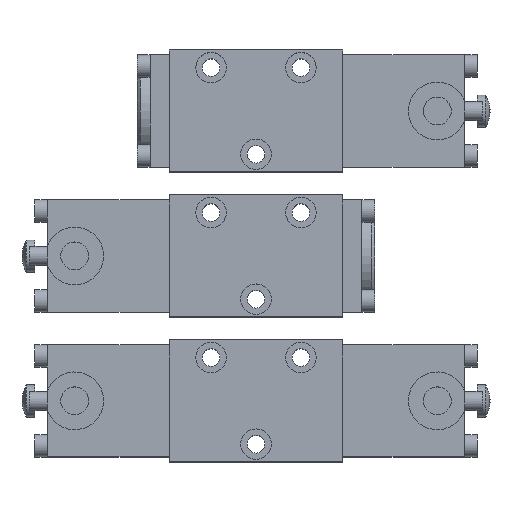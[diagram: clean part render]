
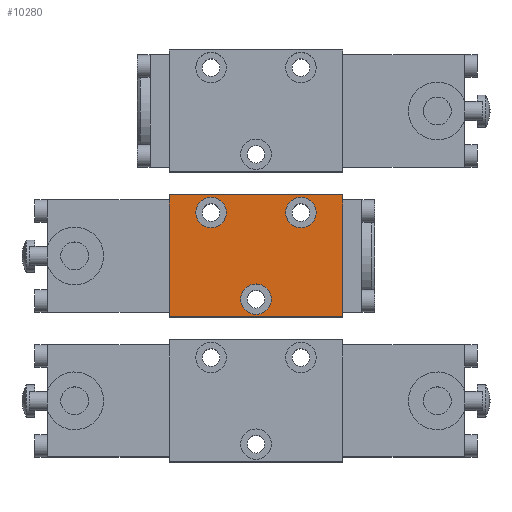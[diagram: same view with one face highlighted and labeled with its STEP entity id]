
A CAD part, top view. The second image highlights one B-rep face of the part: STEP entity #10280.
In plain terms, the highlighted planar face has unit normal (0, 0, 1).
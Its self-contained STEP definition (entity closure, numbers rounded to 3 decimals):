
#10280=ADVANCED_FACE('', (#10290,#10300,#10310,#10320), #10330, .T.);
#40790=AXIS2_PLACEMENT_3D('Ax2Pl3d', #40800, #40810, #40820);
#40830=AXIS2_PLACEMENT_3D('Ax2Pl3d', #40840, #40850, #40860);
#40870=AXIS2_PLACEMENT_3D('Ax2Pl3d', #40880, #40890, #40900);
#40910=AXIS2_PLACEMENT_3D('Ax2Pl3d', #40920, #40930, #40940);
#68710=CARTESIAN_POINT('', (54.,83.,138.));
#68720=CARTESIAN_POINT('', (54.,83.,138.));
#68730=CARTESIAN_POINT('', (54.,45.,138.));
#68840=CARTESIAN_POINT('', (0.,45.,138.));
#68850=CARTESIAN_POINT('', (0.,45.,138.));
#68860=CARTESIAN_POINT('', (0.,83.,138.));
#40800=CARTESIAN_POINT('HicPkt', (27.,50.5,138.));
#68940=CARTESIAN_POINT('', (27.,55.25,138.));
#40840=CARTESIAN_POINT('HicPkt', (0.,83.,138.));
#68950=CARTESIAN_POINT('', (54.,45.,138.));
#68960=CARTESIAN_POINT('', (0.,83.,138.));
#40880=CARTESIAN_POINT('HicPkt', (41.,77.5,138.));
#68970=CARTESIAN_POINT('', (41.,82.25,138.));
#40920=CARTESIAN_POINT('HicPkt', (13.,77.5,138.));
#68980=CARTESIAN_POINT('', (13.,82.25,138.));
#79060=CIRCLE('Circle', #40790, 4.75);
#79070=CIRCLE('Circle', #40870, 4.75);
#79080=CIRCLE('Circle', #40910, 4.75);
#122420=DIRECTION('', (0.,1.,0.));
#122450=DIRECTION('', (0.,-1.,0.));
#40810=DIRECTION('Axis', (0.,0.,1.));
#40820=DIRECTION('RefDirection', (1.,0.,0.));
#40850=DIRECTION('Axis', (0.,0.,1.));
#40860=DIRECTION('RefDirection', (1.,0.,0.));
#122470=DIRECTION('', (1.,0.,0.));
#122480=DIRECTION('', (-1.,0.,0.));
#40890=DIRECTION('Axis', (0.,0.,1.));
#40900=DIRECTION('RefDirection', (1.,0.,0.));
#40930=DIRECTION('Axis', (0.,0.,1.));
#40940=DIRECTION('RefDirection', (1.,0.,0.));
#136640=EDGE_CURVE('', #136650, #136620, #136660, .T.);
#136880=EDGE_CURVE('', #136890, #136860, #136900, .T.);
#137050=EDGE_CURVE('', #137060, #137060, #79060, .T.);
#137070=EDGE_CURVE('', #136860, #136650, #137080, .T.);
#137090=EDGE_CURVE('', #136620, #136890, #137100, .T.);
#137110=EDGE_CURVE('', #137120, #137120, #79070, .T.);
#137130=EDGE_CURVE('', #137140, #137140, #79080, .T.);
#164180=EDGE_LOOP('Edge_loop', (#164190,#164200,#164210,#164220));
#164230=EDGE_LOOP('Edge_loop', (#164240));
#164250=EDGE_LOOP('Edge_loop', (#164260));
#164270=EDGE_LOOP('Edge_loop', (#164280));
#10300=FACE_BOUND('', #164230, .T.);
#10310=FACE_BOUND('', #164250, .T.);
#10320=FACE_BOUND('', #164270, .T.);
#10290=FACE_OUTER_BOUND('Face_outer_bound', #164180, .T.);
#136660=LINE('Line', #68720, #198880);
#136900=LINE('Line', #68850, #198910);
#137080=LINE('Line', #68950, #198930);
#137100=LINE('Line', #68960, #198940);
#164190=ORIENTED_EDGE('', *, *, #136880, .T.);
#164200=ORIENTED_EDGE('', *, *, #137070, .T.);
#164210=ORIENTED_EDGE('', *, *, #136640, .T.);
#164220=ORIENTED_EDGE('', *, *, #137090, .T.);
#164240=ORIENTED_EDGE('', *, *, #137050, .F.);
#164260=ORIENTED_EDGE('', *, *, #137110, .F.);
#164280=ORIENTED_EDGE('', *, *, #137130, .F.);
#10330=PLANE('Plane', #40830);
#198880=VECTOR('', #122420, 38.);
#198910=VECTOR('', #122450, 38.);
#198930=VECTOR('', #122470, 54.);
#198940=VECTOR('', #122480, 54.);
#136620=VERTEX_POINT('', #68710);
#136650=VERTEX_POINT('', #68730);
#136860=VERTEX_POINT('', #68840);
#136890=VERTEX_POINT('', #68860);
#137060=VERTEX_POINT('', #68940);
#137120=VERTEX_POINT('', #68970);
#137140=VERTEX_POINT('', #68980);
